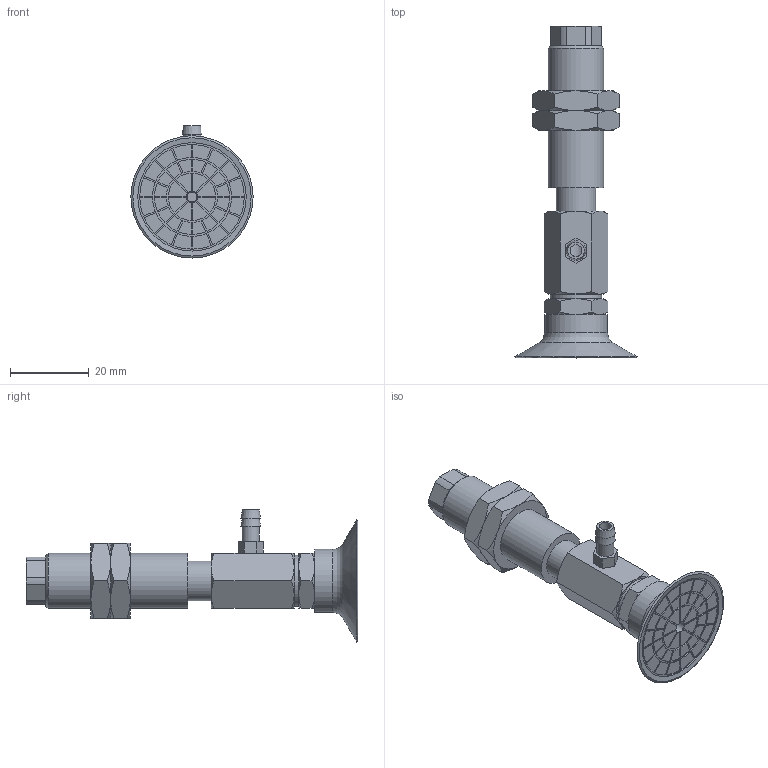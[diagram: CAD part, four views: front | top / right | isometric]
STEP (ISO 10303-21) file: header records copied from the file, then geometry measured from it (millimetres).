
FILE_DESCRIPTION(('STEP AP203'),'1');
FILE_NAME('-T.stp','2025-02-28T06:33:59',(' '),(' '),'Spatial InterOp 3D',' ',' ');
FILE_SCHEMA(('CONFIG_CONTROL_DESIGN'));
Length unit declared in the file: millimetre
Products named in the file (8): BNABPAYS-30B-6-※-T; NAPAYS-30B-6--M; NAPAYS-30B-6--F; Nut-25-S; CONNECTOR-30B-6-PA; TN-PA-30B-M6; T; BPAG-30B-※_3D
Assembly tree (8 placements, depth 2):
  BNABPAYS-30B-6-※-T
    NAPAYS-30B-6--M
    NAPAYS-30B-6--F
    Nut-25-S  x2
    CONNECTOR-30B-6-PA
    TN-PA-30B-M6
    T
    BPAG-30B-※_3D
Bounding box: 31.04 x 84.2 x 33.52 mm (x, y, z)
Volume: 15510.4 mm3; surface area: 12132.6 mm2
Topology: 8 solids, 8 shells, 382 faces, 877 edges, 560 vertices
Faces by surface type: plane 207, cylinder 101, cone 68, torus 6
Full cylindrical faces by diameter (mm): 2.5 x1, 3 x3, 4.134 x2, 4.3 x1, 4.917 x1, 5 x2, 6 x3, 10 x4, 12.917 x2, 13 x1, 14 x1, 16 x1, 27.5 x1
Entity records: 10604 total; most frequent: CARTESIAN_POINT 2115, DIRECTION 1720, ORIENTED_EDGE 1558, EDGE_CURVE 779, AXIS2_PLACEMENT_3D 648, VERTEX_POINT 527, EDGE_LOOP 466, LINE 424
